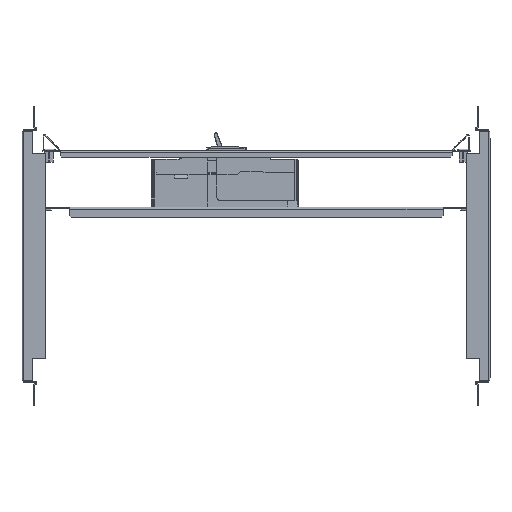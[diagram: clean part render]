
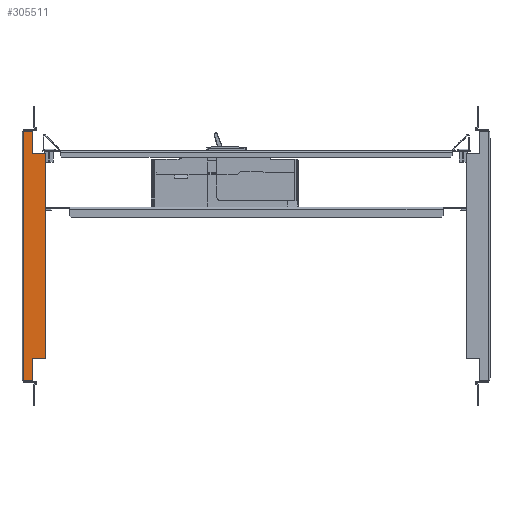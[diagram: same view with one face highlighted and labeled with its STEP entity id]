
A CAD part, front view. The second image highlights one B-rep face of the part: STEP entity #305511.
In plain terms, the highlighted planar face has unit normal (0, -1, 0).
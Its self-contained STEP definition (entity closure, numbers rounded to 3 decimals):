
#302306=CARTESIAN_POINT(' ',(-265.611,-69.467,-160.546));
#302307=VERTEX_POINT(' ',#302306);
#303486=CARTESIAN_POINT(' ',(-265.611,-69.467,120.252));
#303487=VERTEX_POINT(' ',#303486);
#304126=CARTESIAN_POINT(' ',(-257.711,-69.467,-160.546));
#304127=VERTEX_POINT(' ',#304126);
#304141=CARTESIAN_POINT(' ',(-265.611,-69.467,-160.546));
#304146=DIRECTION(' ',(1.,0.,0.));
#304151=VECTOR(' ',#304146,1.);
#304156=LINE('',#304141,#304151);
#304161=EDGE_CURVE(' ',#302307,#304127,#304156,.T.);
#304226=CARTESIAN_POINT(' ',(-265.611,-69.467,-160.546));
#304231=DIRECTION(' ',(0.,0.,1.));
#304236=VECTOR(' ',#304231,1.);
#304241=LINE('',#304226,#304236);
#304246=EDGE_CURVE(' ',#302307,#303487,#304241,.T.);
#304301=CARTESIAN_POINT(' ',(-265.611,-69.467,120.252));
#304306=DIRECTION(' ',(1.,0.,0.));
#304311=VECTOR(' ',#304306,1.);
#304316=LINE('',#304301,#304311);
#304321=CARTESIAN_POINT(' ',(-257.711,-69.467,120.252));
#304322=VERTEX_POINT(' ',#304321);
#304326=EDGE_CURVE(' ',#303487,#304322,#304316,.T.);
#304416=CARTESIAN_POINT(' ',(-257.71,-69.467,118.752));
#304421=DIRECTION(' ',(-0.,-1.,-0.));
#304426=DIRECTION(' ',(1.,0.,0.));
#304431=AXIS2_PLACEMENT_3D(' ',#304416,#304421,#304426);
#304436=CIRCLE('',#304431,1.5);
#304441=CARTESIAN_POINT(' ',(-256.211,-69.467,118.752));
#304442=VERTEX_POINT(' ',#304441);
#304446=EDGE_CURVE(' ',#304442,#304322,#304436,.T.);
#304546=CARTESIAN_POINT(' ',(-256.211,-69.467,118.752));
#304551=DIRECTION(' ',(0.,0.,-1.));
#304556=VECTOR(' ',#304551,1.);
#304561=LINE('',#304546,#304556);
#304566=CARTESIAN_POINT(' ',(-256.211,-69.467,94.852));
#304567=VERTEX_POINT(' ',#304566);
#304571=EDGE_CURVE(' ',#304442,#304567,#304561,.T.);
#304651=CARTESIAN_POINT(' ',(-256.211,-69.467,94.852));
#304656=DIRECTION(' ',(1.,0.,0.));
#304661=VECTOR(' ',#304656,1.);
#304666=LINE('',#304651,#304661);
#304671=CARTESIAN_POINT(' ',(-242.711,-69.467,94.852));
#304672=VERTEX_POINT(' ',#304671);
#304676=EDGE_CURVE(' ',#304567,#304672,#304666,.T.);
#304766=CARTESIAN_POINT(' ',(-242.71,-69.467,93.352));
#304771=DIRECTION(' ',(-0.,-1.,-0.));
#304776=DIRECTION(' ',(1.,0.,0.));
#304781=AXIS2_PLACEMENT_3D(' ',#304766,#304771,#304776);
#304786=CIRCLE('',#304781,1.5);
#304791=CARTESIAN_POINT(' ',(-241.211,-69.467,93.352));
#304792=VERTEX_POINT(' ',#304791);
#304796=EDGE_CURVE(' ',#304792,#304672,#304786,.T.);
#304886=CARTESIAN_POINT(' ',(-241.211,-69.467,-133.646));
#304891=DIRECTION(' ',(0.,0.,1.));
#304896=VECTOR(' ',#304891,1.);
#304901=LINE('',#304886,#304896);
#304906=CARTESIAN_POINT(' ',(-241.211,-69.467,-133.646));
#304907=VERTEX_POINT(' ',#304906);
#304911=EDGE_CURVE(' ',#304907,#304792,#304901,.T.);
#305001=CARTESIAN_POINT(' ',(-242.71,-69.467,-133.647));
#305006=DIRECTION(' ',(-0.,-1.,0.));
#305011=DIRECTION(' ',(0.,0.,-1.));
#305016=AXIS2_PLACEMENT_3D(' ',#305001,#305006,#305011);
#305021=CIRCLE('',#305016,1.499);
#305026=CARTESIAN_POINT(' ',(-242.711,-69.467,-135.146));
#305027=VERTEX_POINT(' ',#305026);
#305031=EDGE_CURVE(' ',#305027,#304907,#305021,.T.);
#305131=CARTESIAN_POINT(' ',(-256.211,-69.467,-135.146));
#305136=DIRECTION(' ',(1.,0.,0.));
#305141=VECTOR(' ',#305136,1.);
#305146=LINE('',#305131,#305141);
#305151=CARTESIAN_POINT(' ',(-256.211,-69.467,-135.146));
#305152=VERTEX_POINT(' ',#305151);
#305156=EDGE_CURVE(' ',#305152,#305027,#305146,.T.);
#305236=CARTESIAN_POINT(' ',(-256.211,-69.467,-159.046));
#305241=DIRECTION(' ',(0.,0.,1.));
#305246=VECTOR(' ',#305241,1.);
#305251=LINE('',#305236,#305246);
#305256=CARTESIAN_POINT(' ',(-256.211,-69.467,-159.046));
#305257=VERTEX_POINT(' ',#305256);
#305261=EDGE_CURVE(' ',#305257,#305152,#305251,.T.);
#305361=CARTESIAN_POINT(' ',(-257.71,-69.467,-159.047));
#305366=DIRECTION(' ',(-0.,-1.,0.));
#305371=DIRECTION(' ',(0.,0.,-1.));
#305376=AXIS2_PLACEMENT_3D(' ',#305361,#305366,#305371);
#305381=CIRCLE('',#305376,1.499);
#305386=EDGE_CURVE(' ',#304127,#305257,#305381,.T.);
#305416=DIRECTION(' ',(0.,-1.,0.));
#305421=CARTESIAN_POINT(' ',(-265.611,-69.467,120.252));
#305426=DIRECTION(' ',(0.,0.,-1.));
#305431=AXIS2_PLACEMENT_3D(' ',#305421,#305416,#305426);
#305436=PLANE('NONE',#305431);
#305441=ORIENTED_EDGE(' ',*,*,#304571,.F.);
#305446=ORIENTED_EDGE(' ',*,*,#304446,.T.);
#305451=ORIENTED_EDGE(' ',*,*,#304326,.F.);
#305456=ORIENTED_EDGE(' ',*,*,#304246,.F.);
#305461=ORIENTED_EDGE(' ',*,*,#304161,.T.);
#305466=ORIENTED_EDGE(' ',*,*,#305386,.T.);
#305471=ORIENTED_EDGE(' ',*,*,#305261,.T.);
#305476=ORIENTED_EDGE(' ',*,*,#305156,.T.);
#305481=ORIENTED_EDGE(' ',*,*,#305031,.T.);
#305486=ORIENTED_EDGE(' ',*,*,#304911,.T.);
#305491=ORIENTED_EDGE(' ',*,*,#304796,.T.);
#305496=ORIENTED_EDGE(' ',*,*,#304676,.F.);
#305501=EDGE_LOOP(' ',(#305441,#305446,#305451,#305456,#305461,#305466,#305471,#305476,#305481,#305486,#305491,#305496));
#305506=FACE_OUTER_BOUND(' ',#305501,.T.);
#305511=ADVANCED_FACE('NONE',(#305506),#305436,.T.);
